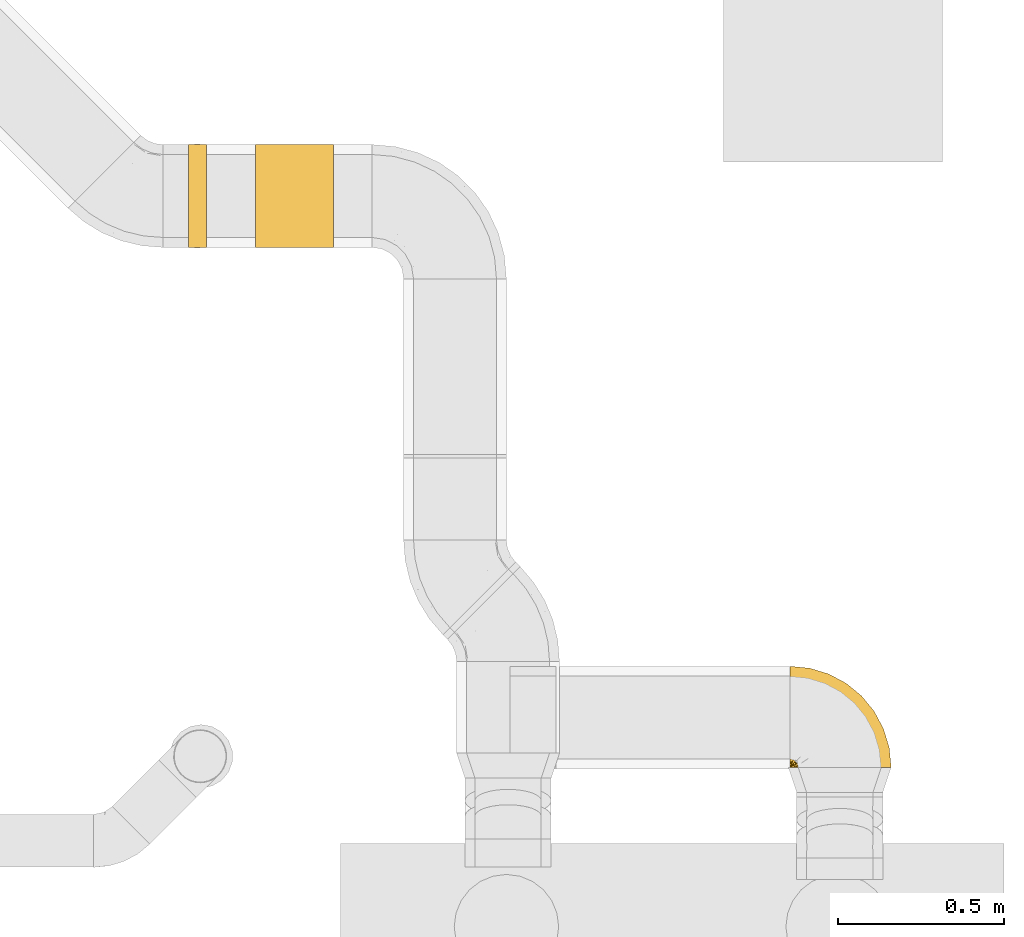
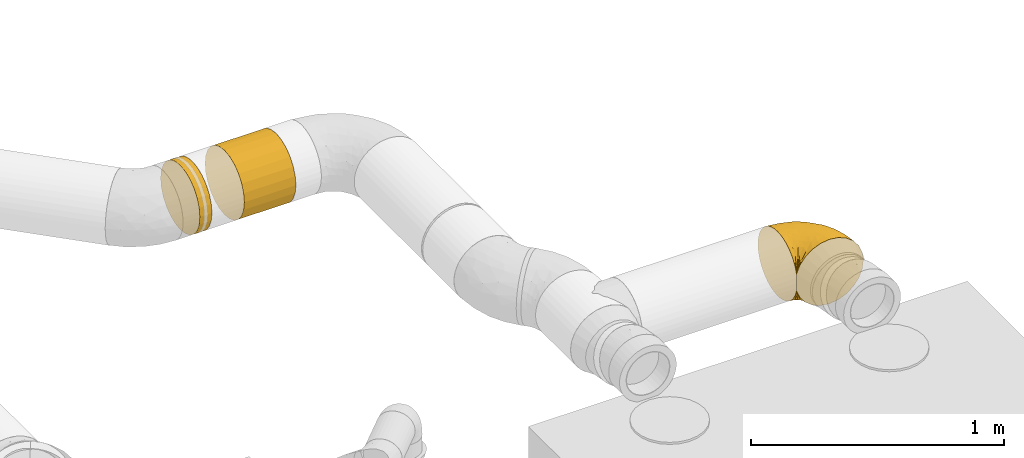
# One storey, part 8 of 21: 3 coverings.
"""IFC2X3 building model written with IfcOpenShell, lengths in millimetres."""

from ifc_helpers import new_model, entity, si_unit, converted_unit, derived_unit, direction, frame, origin_with_axes, place, context, subcontext, project, spatial, open_shell, surface_model, source, transform, mapped, element, save


model = new_model("IFC2X3")

# Units and contexts
model_context = context("Model", 3, precision=0.01, world=frame((0.0, 4.29681676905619e-09, 0.0)), true_north=direction((4.01073788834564e-13, 1.0)))
plan_context = context("Plan", 3, precision=0.01, world=frame((0.0, 4.29681676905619e-09, 0.0)), true_north=direction((4.01073788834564e-13, 1.0)))
body_context = subcontext(model_context, "Body", "Model", "MODEL_VIEW")
ifc_project = project(units=[converted_unit("PLANEANGLEUNIT", "DEGREE", entity("IfcPositiveLengthMeasure", 0.0174532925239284), si_unit("PLANEANGLEUNIT", "RADIAN"), dimensions=[0, 0, 0, 0, 0, 0, 0]), si_unit("AREAUNIT", "SQUARE_METRE"), si_unit("LENGTHUNIT", "METRE", prefix="MILLI"), si_unit("MASSUNIT", "GRAM", prefix="KILO"), si_unit("POWERUNIT", "WATT"), si_unit("PRESSUREUNIT", "PASCAL"), si_unit("FORCEUNIT", "NEWTON", prefix="KILO"), si_unit("ELECTRICVOLTAGEUNIT", "VOLT"), si_unit("ELECTRICCURRENTUNIT", "AMPERE"), si_unit("THERMODYNAMICTEMPERATUREUNIT", "DEGREE_CELSIUS"), si_unit("TIMEUNIT", "SECOND"), si_unit("VOLUMEUNIT", "CUBIC_METRE"), derived_unit("LINEARVELOCITYUNIT", [(si_unit("LENGTHUNIT", "METRE"), 1), (si_unit("TIMEUNIT", "SECOND"), -1)]), derived_unit("VOLUMETRICFLOWRATEUNIT", [(si_unit("VOLUMEUNIT", "CUBIC_METRE"), 1), (si_unit("TIMEUNIT", "SECOND"), -1)]), derived_unit("THERMALTRANSMITTANCEUNIT", [(si_unit("POWERUNIT", "WATT"), 1), (si_unit("THERMODYNAMICTEMPERATUREUNIT", "KELVIN"), -1), (si_unit("AREAUNIT", "SQUARE_METRE"), -1)]), derived_unit("SOUNDPRESSUREUNIT", [(si_unit("PRESSUREUNIT", "PASCAL"), 1)])], contexts=[model_context, plan_context])

# Site, building, storey
site_placement = place(None, frame((0.0, -4.29681676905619e-09, 0.0), z_axis=(0.0, 0.0, 1.0), x_axis=(1.0, 0.0, 0.0)))
site = spatial("IfcSite", under=ifc_project, at=site_placement, Name="ENGM", CompositionType="ELEMENT")
building_placement = place(site_placement, frame((0.0, 4.29681676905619e-09, 0.0), z_axis=(0.0, 0.0, 1.0), x_axis=(1.0, 0.0, 0.0)))
building = spatial("IfcBuilding", under=site, at=building_placement, Name="TI", CompositionType="ELEMENT")
storey_placement = place(building_placement, frame((0.0, 0.0, 210900.0), z_axis=(0.0, 0.0, 1.0), x_axis=(1.0, 0.0, 0.0)))
storey = spatial("IfcBuildingStorey", under=building, at=storey_placement, Name="Nivå F", CompositionType="ELEMENT", Elevation=210900.0)

# Coverings
shared_shape_1 = source(origin_with_axes(), body_context, "Body", "SurfaceModel", [
    surface_model("IfcShellBasedSurfaceModel", [(117.5, 134.23394, -77.5), (117.5, 40.11695, -149.7185), (117.5, 77.5, -134.23394), (117.5, 109.60155, -109.60155), (117.5, 149.7185, -40.11695), (117.5, 0.0, -155.0), (117.5, 155.0, 0.0), (117.5, -77.5, -134.23394), (117.5, -40.11695, -149.7185), (117.5, -109.60155, -109.60155), (117.5, -134.23394, -77.5), (117.5, -155.0, 0.0), (117.5, -149.7185, -40.11695), (117.5, 149.7185, 40.11695), (117.5, 134.23394, 77.5), (117.5, 109.60155, 109.60155), (117.5, 77.5, 134.23394), (117.5, 40.11695, 149.7185), (117.5, 0.0, 155.0), (117.5, -149.7185, 40.11695), (117.5, -109.60155, 109.60155), (117.5, -134.23394, 77.5), (117.5, -40.11695, 149.7185), (117.5, -77.5, 134.23394), (-117.5, 40.11695, 149.7185), (-117.5, -40.11695, 149.7185), (-117.5, 0.0, 155.0), (-117.5, 149.7185, 40.11695), (-117.5, 77.5, 134.23394), (-117.5, 109.60155, 109.60155), (-117.5, 134.23394, 77.5), (-117.5, -109.60155, -109.60155), (-117.5, -109.60155, 109.60155), (-117.5, -77.5, 134.23394), (-117.5, -149.7185, 40.11695), (-117.5, -134.23394, -77.5), (-117.5, -134.23394, 77.5), (-117.5, -155.0, 0.0), (-117.5, 149.7185, -40.11695), (-117.5, 77.5, -134.23394), (-117.5, 134.23394, -77.5), (-117.5, 40.11695, -149.7185), (-117.5, 109.60155, -109.60155), (-117.5, -149.7185, -40.11695), (-117.5, -77.5, -134.23394), (-117.5, 0.0, -155.0), (-117.5, -40.11695, -149.7185), (-117.5, 155.0, 0.0)], [open_shell([[[0, 1, 2]], [[0, 2, 3]], [[1, 4, 5]], [[4, 1, 0]], [[5, 4, 6]], [[5, 7, 8]], [[7, 5, 9]], [[6, 9, 5]], [[6, 10, 9]], [[10, 11, 12]], [[10, 6, 13]], [[13, 14, 15]], [[13, 15, 16]], [[13, 17, 11]], [[17, 13, 16]], [[11, 17, 18]], [[19, 20, 21]], [[19, 11, 18]], [[20, 22, 23]], [[22, 20, 19]], [[18, 22, 19]], [[13, 11, 10]], [[24, 25, 26]], [[27, 24, 28]], [[29, 30, 27]], [[29, 27, 28]], [[31, 25, 24]], [[25, 32, 33]], [[34, 32, 35]], [[32, 34, 36]], [[37, 34, 35]], [[25, 35, 32]], [[31, 24, 27]], [[27, 38, 31]], [[39, 38, 40]], [[39, 41, 38]], [[39, 40, 42]], [[31, 38, 41]], [[31, 35, 25]], [[43, 37, 35]], [[44, 45, 46]], [[44, 31, 41]], [[44, 41, 45]], [[27, 47, 38]], [[30, 29, 14]], [[6, 27, 13]], [[27, 6, 47]], [[14, 13, 27]], [[27, 30, 14]], [[29, 15, 14]], [[16, 28, 24]], [[17, 24, 26]], [[15, 28, 16]], [[16, 24, 17]], [[26, 18, 17]], [[28, 15, 29]], [[22, 25, 33]], [[23, 33, 32]], [[26, 25, 18]], [[18, 25, 22]], [[33, 23, 22]], [[32, 20, 23]], [[21, 36, 34]], [[19, 34, 37]], [[20, 36, 21]], [[21, 34, 19]], [[37, 11, 19]], [[36, 20, 32]], [[12, 43, 35]], [[10, 35, 31]], [[37, 43, 11]], [[11, 43, 12]], [[35, 10, 12]], [[31, 9, 10]], [[7, 44, 46]], [[8, 46, 45]], [[9, 44, 7]], [[7, 46, 8]], [[45, 5, 8]], [[44, 9, 31]], [[1, 41, 39]], [[2, 39, 42]], [[45, 41, 5]], [[5, 41, 1]], [[39, 2, 1]], [[42, 3, 2]], [[0, 40, 38]], [[4, 38, 47]], [[3, 40, 0]], [[0, 38, 4]], [[47, 6, 4]], [[40, 3, 42]]])]),
])
covering_1_placement = place(storey_placement, frame((609085.78329, 692765.29135, 2600.0), z_axis=(0.0, 0.0, 1.0), x_axis=(1.0, 0.0, 0.0)))
element("IfcCovering", 1, at=covering_1_placement, inside=storey, Name="B-EI60", PredefinedType="INSULATION", context=body_context, shape_type="MappedRepresentation", body=[
    mapped(shared_shape_1, transform((0.0, 0.0, 0.0), scale=1.0)),
])
shared_shape_2 = source(origin_with_axes(), body_context, "Body", "SurfaceModel", [
    surface_model("IfcShellBasedSurfaceModel", [(27.5, 134.23394, -77.5), (27.5, 40.11695, -149.7185), (27.5, 77.5, -134.23394), (27.5, 109.60155, -109.60155), (27.5, 149.7185, -40.11695), (27.5, 0.0, -155.0), (27.5, 155.0, 0.0), (27.5, -77.5, -134.23394), (27.5, -40.11695, -149.7185), (27.5, -109.60155, -109.60155), (27.5, -134.23394, -77.5), (27.5, -155.0, 0.0), (27.5, -149.7185, -40.11695), (27.5, 149.7185, 40.11695), (27.5, 134.23394, 77.5), (27.5, 109.60155, 109.60155), (27.5, 77.5, 134.23394), (27.5, 40.11695, 149.7185), (27.5, 0.0, 155.0), (27.5, -149.7185, 40.11695), (27.5, -109.60155, 109.60155), (27.5, -134.23394, 77.5), (27.5, -40.11695, 149.7185), (27.5, -77.5, 134.23394), (-27.5, 40.11695, 149.7185), (-27.5, -40.11695, 149.7185), (-27.5, 0.0, 155.0), (-27.5, 149.7185, 40.11695), (-27.5, 77.5, 134.23394), (-27.5, 109.60155, 109.60155), (-27.5, 134.23394, 77.5), (-27.5, -109.60155, -109.60155), (-27.5, -109.60155, 109.60155), (-27.5, -77.5, 134.23394), (-27.5, -149.7185, 40.11695), (-27.5, -134.23394, -77.5), (-27.5, -134.23394, 77.5), (-27.5, -155.0, 0.0), (-27.5, 149.7185, -40.11695), (-27.5, 77.5, -134.23394), (-27.5, 134.23394, -77.5), (-27.5, 40.11695, -149.7185), (-27.5, 109.60155, -109.60155), (-27.5, -149.7185, -40.11695), (-27.5, -77.5, -134.23394), (-27.5, 0.0, -155.0), (-27.5, -40.11695, -149.7185), (-27.5, 155.0, 0.0)], [open_shell([[[0, 1, 2]], [[0, 2, 3]], [[1, 4, 5]], [[4, 1, 0]], [[5, 4, 6]], [[5, 7, 8]], [[7, 5, 9]], [[6, 9, 5]], [[6, 10, 9]], [[10, 11, 12]], [[10, 6, 13]], [[13, 14, 15]], [[13, 15, 16]], [[13, 17, 11]], [[17, 13, 16]], [[11, 17, 18]], [[19, 20, 21]], [[19, 11, 18]], [[20, 22, 23]], [[22, 20, 19]], [[18, 22, 19]], [[13, 11, 10]], [[24, 25, 26]], [[27, 24, 28]], [[29, 30, 27]], [[29, 27, 28]], [[31, 25, 24]], [[25, 32, 33]], [[34, 32, 35]], [[32, 34, 36]], [[37, 34, 35]], [[25, 35, 32]], [[31, 24, 27]], [[27, 38, 31]], [[39, 38, 40]], [[39, 41, 38]], [[39, 40, 42]], [[31, 38, 41]], [[31, 35, 25]], [[43, 37, 35]], [[44, 45, 46]], [[44, 31, 41]], [[44, 41, 45]], [[27, 47, 38]], [[13, 47, 27]], [[14, 27, 30]], [[6, 47, 13]], [[14, 13, 27]], [[15, 14, 30]], [[30, 29, 15]], [[24, 26, 17]], [[16, 28, 17]], [[16, 15, 28]], [[17, 28, 24]], [[26, 18, 17]], [[28, 15, 29]], [[22, 26, 25]], [[23, 25, 33]], [[18, 26, 22]], [[23, 22, 25]], [[20, 23, 33]], [[33, 32, 20]], [[21, 32, 36]], [[19, 36, 34]], [[21, 36, 19]], [[11, 19, 34]], [[37, 11, 34]], [[32, 21, 20]], [[12, 37, 43]], [[10, 43, 35]], [[11, 37, 12]], [[10, 12, 43]], [[9, 10, 35]], [[35, 31, 9]], [[7, 31, 44]], [[8, 44, 46]], [[7, 44, 8]], [[5, 8, 46]], [[45, 5, 46]], [[31, 7, 9]], [[1, 45, 41]], [[2, 41, 39]], [[5, 45, 1]], [[2, 1, 41]], [[3, 2, 39]], [[39, 42, 3]], [[0, 42, 40]], [[4, 40, 38]], [[0, 40, 4]], [[6, 4, 38]], [[47, 6, 38]], [[42, 0, 3]]])]),
])
covering_2_placement = place(storey_placement, frame((608793.0993, 692765.29135, 2600.0), z_axis=(0.0, 0.0, 1.0), x_axis=(1.0, 0.0, 0.0)))
element("IfcCovering", 2, at=covering_2_placement, inside=storey, Name="B-EI60", PredefinedType="INSULATION", context=body_context, shape_type="MappedRepresentation", body=[
    mapped(shared_shape_2, transform((0.0, 0.0, 0.0), scale=1.0)),
])
shared_shape_3 = source(origin_with_axes(), body_context, "Body", "SurfaceModel", [
    surface_model("IfcShellBasedSurfaceModel", [(53.0122, 150.0, 145.65269), (77.50252, 150.0, 134.23249), (26.91195, 150.0, 152.64582), (0.0, 150.0, 155.0), (118.73529, 150.0, 99.63399), (-149.602, 150.0, -40.54927), (-40.0315, 150.0, 149.74138), (134.23266, 150.0, 77.50222), (145.65278, 150.0, 53.01196), (99.63454, 150.0, 118.73482), (-94.17833, 150.0, 123.10745), (-77.34385, 150.0, 134.32397), (-59.19195, 150.0, 143.25262), (-20.18853, 150.0, 153.67961), (-122.77614, 150.0, 94.60984), (-109.40886, 150.0, 109.79391), (-134.05246, 150.0, 77.81348), (-149.602, 150.0, 40.54927), (-143.04559, 150.0, 59.69053), (152.6459, 150.0, 26.91148), (155.0, 150.0, 0.0), (152.64582, 150.0, -26.91195), (99.63399, 150.0, -118.73529), (134.23249, 150.0, -77.50252), (145.65269, 150.0, -53.0122), (118.73482, 150.0, -99.63454), (77.50222, 150.0, -134.23266), (53.01196, 150.0, -145.65278), (26.91148, 150.0, -152.6459), (0.0, 150.0, -155.0), (-94.1823, 150.0, -123.1044), (-109.41224, 150.0, -109.79055), (-122.77862, 150.0, -94.6066), (-134.05394, 150.0, -77.81094), (-143.0461, 150.0, -59.68929), (-20.18986, 150.0, -153.67945), (-40.03434, 150.0, -149.74061), (-59.19573, 150.0, -143.25106), (-77.34799, 150.0, -134.32159), (-150.0, 149.602, -40.54927), (-150.0, 134.05448, -77.81), (-150.0, 77.34484, -134.3234), (-150.0, 149.602, 40.54927), (-150.0, 109.41143, -109.79135), (-150.0, -40.11695, 149.7185), (-150.0, 0.0, 155.0), (-150.0, 134.05448, 77.81), (-150.0, 77.34484, 134.3234), (-150.0, 109.41143, 109.79135), (-150.0, 40.03045, 149.74166), (-150.0, 40.03045, -149.74166), (-150.0, -40.11695, -149.7185), (-150.0, 0.0, -155.0), (-150.0, -149.7185, -40.11695), (-150.0, -77.5, -134.23394), (-150.0, -109.60155, -109.60155), (-150.0, -134.23394, -77.5), (-150.0, -109.60155, 109.60155), (-150.0, -77.5, 134.23394), (-150.0, -149.7185, 40.11695), (-150.0, -134.23394, 77.5), (-150.0, -155.0, 0.0), (-149.71857, 149.71857, 40.54927), (-149.71857, 149.71857, -40.54927), (-122.0938, 63.58605, -143.25267), (-136.20073, 95.91287, -123.10592), (-137.47708, 125.83029, -94.60648), (-147.1653, 140.01208, -67.31958), (-145.05359, 140.9526, -67.17187), (-149.94253, 149.6258, -40.54927), (-80.29961, 51.39737, -152.21515), (-103.44954, 37.61727, -152.38384), (-94.99005, 78.30964, -143.06822), (-55.95077, 115.20609, -146.80879), (-89.48176, 101.66012, -136.97501), (-88.82525, 121.39611, -131.24017), (-111.5374, 121.30822, -116.69619), (-144.09591, 123.4267, -94.60648), (-127.29873, 29.80052, -152.50922), (-75.0, 20.09619, -155.0), (-118.1798, 139.03454, -102.41686), (-118.92581, 90.55276, -130.95454), (-70.00847, 133.96789, -139.08278), (-61.94591, 82.43371, -150.01067), (-20.09619, 75.0, -155.0), (-43.93398, 43.93398, -155.0), (-149.68409, 149.80181, -40.54927), (-149.6496, 149.88506, -40.54927), (-132.32871, 142.03789, -83.45054), (-31.66904, 101.56483, -153.41062), (-136.84157, 146.59806, -73.60439), (-96.60055, 136.76109, -122.48696), (-32.51292, 126.45276, -152.03415), (-5.11113, 111.17714, -155.0), (-111.17714, 5.11113, -155.0), (-137.03744, 135.04293, -84.08924), (-122.88609, 116.1525, -112.49311), (-136.26737, 140.44841, -79.14233), (-131.29438, 108.39556, -114.58186), (-106.70969, 100.42277, -130.1473), (-149.85928, 149.66028, -40.54927), (-149.78892, 149.68943, -40.54927), (-81.04119, -16.4813, -152.02986), (-116.18378, -26.02376, -152.21653), (131.78325, 33.28155, 0.0), (141.04553, 78.41765, -40.11476), (149.13951, 90.49746, 0.0), (-67.24735, -127.11264, -68.1691), (114.14712, 29.15563, -65.5067), (71.60067, -25.07998, -80.56368), (73.38458, 8.67006, -104.65045), (19.44892, -103.59823, 0.0), (0.95675, -110.7753, -33.58994), (49.11602, -77.65106, -28.03421), (-55.94132, -75.53005, -122.96977), (-107.24387, -90.58835, -122.96977), (-95.66121, -52.13969, -143.20133), (-0.20771, 35.06033, -150.06284), (-51.31739, 1.48198, -152.392), (-54.64138, -41.60716, -141.15892), (66.67312, 101.83568, -137.28255), (45.31502, 58.92276, -140.47743), (34.46684, 104.00581, -149.71919), (24.23902, -68.16086, -85.62716), (34.45369, -32.67366, -109.60181), (24.66713, 4.62395, -134.37766), (63.48014, 35.8833, -124.69436), (-79.13657, -113.61121, -94.35802), (-90.49746, -149.13951, 0.0), (37.641, -76.72836, -56.58032), (80.98557, -39.56495, -43.35542), (-33.28155, -131.78325, 0.0), (-62.91134, -137.09287, -39.00803), (-13.29658, -105.75414, -66.52793), (16.94312, 69.59641, -150.92769), (-24.95593, -12.96061, -144.75851), (130.97075, 88.8354, -71.44703), (94.07091, 61.55667, -109.60181), (-18.16534, -43.73064, -130.0498), (-9.76446, -69.1649, -109.00911), (65.66757, -65.66757, 0.0), (103.59823, -19.44892, 0.0), (120.05296, 16.01657, -32.92188), (-5.11113, 111.17714, 155.0), (34.46716, 104.0056, 149.7191), (-62.91133, -137.09289, 39.0079), (66.67351, 101.83536, 137.28232), (-4.6351, -113.35095, 35.80975), (-0.2077, 35.06033, 150.06284), (-20.09619, 75.0, 155.0), (-43.93398, 43.93398, 155.0), (36.16335, -79.7298, 52.90958), (-13.29652, -105.75426, 66.52764), (130.97108, 88.83573, 71.44654), (94.07163, 61.55714, 109.6013), (-92.39124, -133.99727, 66.97895), (80.98555, -39.56494, 43.3555), (141.04569, 78.41789, 40.11439), (-116.18307, -26.02416, 152.21643), (-42.25815, 9.58809, 152.63287), (-81.59831, -114.26067, 94.35802), (-106.87422, -81.84174, 129.07425), (-68.59042, -52.86926, 138.99578), (-109.18329, -55.29772, 143.20132), (24.85479, 7.19063, 135.22219), (45.31512, 58.92233, 140.4773), (71.60146, -25.07914, 80.56352), (73.38472, 8.67039, 104.65052), (34.45406, -32.67402, 109.6013), (-62.50502, -78.15668, 122.96977), (-22.5047, -16.15511, 143.15239), (-77.22963, -25.6832, 149.70747), (114.14749, 29.15614, 65.50643), (63.48119, 35.88453, 124.69411), (120.0532, 16.01702, 32.92178), (-12.32249, -52.34142, 122.67654), (-19.74165, -84.78439, 99.91659), (26.84205, -68.68367, 82.46936), (-75.0, 20.09619, 155.0), (-111.17714, 5.11113, 155.0), (16.94342, 69.59623, 150.92761), (-126.9186, 42.25363, 149.80065), (-133.44376, 70.7605, 138.77026), (-80.71722, 115.52173, 136.9396), (-88.44442, 132.27863, 128.99063), (-102.56993, 126.66501, 120.78383), (-129.14296, 145.62289, 86.39583), (-78.97145, 57.43379, 151.37565), (-102.00586, 34.13191, 153.03779), (-149.6496, 149.88506, 40.54927), (-149.68409, 149.80181, 40.54927), (-138.49277, 144.51348, 72.02055), (-31.66714, 101.56927, 153.41064), (-62.73488, 83.03912, 149.74853), (-145.07011, 140.96969, 67.1242), (-149.85928, 149.66028, 40.54927), (-147.18207, 140.07114, 67.19209), (-79.93189, 99.563, 141.32072), (-55.94657, 115.20788, 146.80992), (-127.65846, 131.00429, 97.27617), (-138.2493, 135.6572, 82.12014), (-126.96761, 121.12603, 106.02507), (-143.89541, 123.47205, 94.60648), (-137.14121, 126.0073, 94.60648), (-133.70052, 96.61307, 123.10592), (-141.16662, 142.91589, 69.23674), (-118.67586, 137.68084, 102.42018), (-32.51047, 126.45429, 152.03457), (-149.94253, 149.6258, 40.54927), (-112.02924, 142.68426, 107.84446), (-56.66755, 133.19502, 144.85039), (-141.71917, 147.96851, 63.32625), (-149.6258, 149.94253, 40.54927), (-127.7393, 109.40375, 115.20024), (-112.88997, 97.15414, 129.33464), (-98.3972, 112.04888, 128.99063), (-89.95823, 85.78628, 142.02115), (-113.50407, 61.89104, 145.05307), (-103.07319, 76.35019, 141.76527), (-149.78892, 149.68943, 40.54927)], [open_shell([[[0, 1, 2]], [[3, 2, 1]], [[1, 4, 3]], [[4, 5, 6]], [[4, 7, 8]], [[4, 6, 3]], [[9, 4, 1]], [[8, 5, 4]], [[10, 6, 5]], [[6, 11, 12]], [[11, 6, 10]], [[13, 3, 6]], [[14, 15, 16]], [[16, 17, 18]], [[5, 17, 16]], [[5, 16, 15]], [[10, 5, 15]], [[8, 19, 20]], [[8, 21, 22]], [[22, 21, 23]], [[23, 21, 24]], [[22, 23, 25]], [[22, 26, 27]], [[27, 28, 29]], [[22, 27, 5]], [[8, 22, 5]], [[29, 5, 27]], [[30, 31, 32]], [[5, 33, 34]], [[33, 5, 32]], [[30, 32, 5]], [[35, 36, 37]], [[30, 37, 38]], [[30, 5, 37]], [[5, 29, 37]], [[29, 35, 37]], [[21, 8, 20]], [[39, 40, 41]], [[39, 41, 42]], [[41, 40, 43]], [[44, 45, 41]], [[46, 47, 48]], [[47, 46, 42]], [[42, 49, 47]], [[49, 42, 45]], [[42, 41, 45]], [[41, 50, 44]], [[51, 44, 52]], [[53, 51, 54]], [[55, 56, 53]], [[55, 53, 54]], [[44, 51, 53]], [[44, 57, 58]], [[57, 44, 59]], [[57, 59, 60]], [[44, 53, 59]], [[53, 61, 59]], [[52, 44, 50]], [[39, 42, 62]], [[63, 39, 62]], [[17, 5, 62]], [[63, 62, 5]], [[64, 41, 65]], [[66, 67, 68]], [[40, 39, 69]], [[70, 71, 72]], [[41, 43, 65]], [[73, 74, 75]], [[74, 76, 75]], [[77, 43, 40]], [[50, 78, 52]], [[77, 65, 43]], [[78, 64, 71]], [[71, 70, 79]], [[32, 31, 80]], [[50, 41, 64]], [[81, 64, 65]], [[37, 82, 38]], [[83, 84, 85]], [[86, 87, 88]], [[34, 87, 5]], [[89, 83, 73]], [[90, 34, 33]], [[73, 83, 74]], [[82, 75, 91]], [[30, 91, 31]], [[38, 82, 91]], [[89, 92, 93]], [[35, 93, 92]], [[85, 70, 83]], [[75, 82, 73]], [[36, 82, 37]], [[92, 89, 73]], [[82, 36, 92]], [[94, 71, 79]], [[35, 92, 36]], [[35, 29, 93]], [[77, 67, 66]], [[32, 90, 33]], [[92, 73, 82]], [[66, 68, 95]], [[75, 80, 91]], [[95, 96, 66]], [[32, 80, 90]], [[80, 75, 76]], [[88, 76, 97]], [[96, 81, 98]], [[76, 96, 95]], [[87, 90, 88]], [[93, 84, 89]], [[83, 89, 84]], [[83, 72, 74]], [[99, 74, 72]], [[69, 67, 40]], [[77, 66, 98]], [[67, 69, 100]], [[67, 100, 68]], [[40, 67, 77]], [[95, 101, 63]], [[95, 63, 97]], [[68, 101, 95]], [[76, 95, 97]], [[99, 76, 74]], [[81, 72, 64]], [[78, 71, 94]], [[72, 71, 64]], [[83, 70, 72]], [[85, 79, 70]], [[68, 100, 101]], [[98, 81, 65]], [[99, 81, 96]], [[52, 78, 94]], [[64, 78, 50]], [[31, 91, 80]], [[38, 91, 30]], [[97, 63, 86]], [[34, 90, 87]], [[88, 90, 80]], [[81, 99, 72]], [[76, 99, 96]], [[77, 98, 65]], [[96, 98, 66]], [[76, 88, 80]], [[86, 88, 97]], [[79, 102, 94]], [[103, 52, 94]], [[104, 105, 106]], [[107, 53, 56]], [[108, 109, 110]], [[111, 112, 113]], [[114, 115, 116]], [[85, 117, 118]], [[54, 115, 55]], [[102, 118, 119]], [[21, 106, 105]], [[120, 121, 122]], [[109, 123, 124]], [[125, 121, 126]], [[56, 127, 107]], [[61, 53, 128]], [[113, 129, 130]], [[56, 55, 127]], [[131, 128, 132]], [[129, 112, 133]], [[121, 117, 134]], [[130, 109, 108]], [[131, 132, 112]], [[125, 135, 117]], [[121, 134, 122]], [[132, 107, 133]], [[25, 23, 136]], [[128, 53, 132]], [[28, 27, 122]], [[137, 22, 25]], [[124, 138, 125]], [[27, 26, 120]], [[93, 28, 122]], [[27, 120, 122]], [[55, 115, 127]], [[28, 93, 29]], [[127, 114, 139]], [[138, 119, 135]], [[140, 130, 141]], [[105, 136, 24]], [[117, 85, 84]], [[142, 105, 104]], [[105, 24, 21]], [[54, 51, 116]], [[137, 25, 136]], [[120, 22, 137]], [[21, 20, 106]], [[142, 141, 130]], [[139, 124, 123]], [[108, 136, 105]], [[105, 142, 108]], [[102, 103, 94]], [[118, 117, 135]], [[93, 122, 134]], [[110, 126, 137]], [[125, 117, 121]], [[138, 124, 139]], [[118, 102, 79]], [[103, 116, 51]], [[123, 129, 133]], [[110, 109, 124]], [[129, 109, 130]], [[133, 127, 139]], [[139, 123, 133]], [[138, 139, 114]], [[119, 114, 116]], [[125, 138, 135]], [[114, 119, 138]], [[102, 119, 116]], [[109, 129, 123]], [[130, 140, 113]], [[131, 112, 111]], [[132, 133, 112]], [[111, 113, 140]], [[112, 129, 113]], [[141, 142, 104]], [[130, 108, 142]], [[116, 103, 102]], [[52, 103, 51]], [[22, 120, 26]], [[126, 120, 137]], [[137, 136, 108]], [[24, 136, 23]], [[116, 115, 54]], [[127, 115, 114]], [[126, 124, 125]], [[108, 110, 137]], [[126, 110, 124]], [[120, 126, 121]], [[85, 118, 79]], [[119, 118, 135]], [[117, 84, 134]], [[93, 134, 84]], [[107, 132, 53]], [[127, 133, 107]], [[2, 143, 144]], [[59, 61, 128]], [[131, 145, 128]], [[146, 9, 1]], [[131, 111, 147]], [[148, 149, 150]], [[151, 152, 147]], [[153, 4, 154]], [[155, 59, 145]], [[140, 156, 151]], [[106, 19, 157]], [[156, 140, 141]], [[45, 44, 158]], [[159, 148, 150]], [[152, 160, 155]], [[161, 162, 163]], [[163, 44, 58]], [[164, 165, 148]], [[166, 151, 156]], [[166, 167, 168]], [[161, 160, 169]], [[170, 159, 171]], [[166, 156, 172]], [[168, 173, 164]], [[174, 141, 104]], [[175, 164, 170]], [[157, 104, 106]], [[57, 160, 161]], [[175, 169, 176]], [[19, 8, 157]], [[177, 151, 166]], [[20, 19, 106]], [[146, 1, 0]], [[172, 157, 153]], [[178, 179, 171]], [[8, 7, 153]], [[162, 171, 163]], [[154, 4, 9]], [[165, 144, 180]], [[150, 178, 159]], [[180, 143, 149]], [[165, 180, 148]], [[144, 146, 0]], [[154, 172, 153]], [[0, 2, 144]], [[176, 169, 160]], [[3, 143, 2]], [[57, 60, 160]], [[157, 172, 174]], [[144, 165, 146]], [[163, 158, 44]], [[59, 128, 145]], [[155, 160, 60]], [[157, 174, 104]], [[176, 160, 152]], [[164, 148, 170]], [[168, 167, 173]], [[161, 163, 58]], [[158, 171, 179]], [[177, 176, 152]], [[175, 176, 168]], [[164, 175, 168]], [[162, 175, 170]], [[167, 172, 154]], [[168, 176, 177]], [[172, 156, 174]], [[141, 174, 156]], [[177, 152, 151]], [[168, 177, 166]], [[147, 152, 145]], [[140, 151, 111]], [[131, 147, 145]], [[111, 151, 147]], [[8, 153, 157]], [[153, 7, 4]], [[173, 146, 165]], [[9, 146, 154]], [[171, 158, 163]], [[45, 158, 179]], [[171, 159, 178]], [[148, 159, 170]], [[175, 162, 169]], [[170, 171, 162]], [[172, 167, 166]], [[167, 154, 173]], [[146, 173, 154]], [[164, 173, 165]], [[57, 161, 58]], [[162, 161, 169]], [[143, 180, 144]], [[149, 148, 180]], [[59, 155, 60]], [[152, 155, 145]], [[45, 179, 181]], [[49, 182, 47]], [[183, 184, 185]], [[186, 14, 16]], [[187, 178, 150]], [[178, 188, 179]], [[189, 190, 191]], [[192, 193, 149]], [[194, 195, 196]], [[197, 198, 183]], [[199, 200, 201]], [[46, 48, 202]], [[179, 188, 181]], [[194, 203, 200]], [[181, 182, 49]], [[204, 48, 47]], [[199, 205, 200]], [[206, 186, 191]], [[207, 192, 143]], [[46, 208, 42]], [[143, 3, 13]], [[185, 184, 206]], [[209, 14, 186]], [[210, 6, 12]], [[195, 208, 196]], [[16, 18, 211]], [[10, 184, 11]], [[6, 210, 207]], [[193, 150, 149]], [[198, 207, 210]], [[18, 17, 212]], [[209, 10, 15]], [[211, 191, 186]], [[209, 15, 14]], [[210, 11, 184]], [[201, 213, 214]], [[187, 150, 193]], [[215, 185, 199]], [[211, 18, 212]], [[209, 186, 206]], [[192, 207, 198]], [[6, 207, 13]], [[143, 13, 207]], [[199, 206, 191]], [[216, 187, 193]], [[204, 217, 218]], [[204, 213, 202]], [[216, 215, 214]], [[188, 187, 217]], [[218, 187, 216]], [[215, 199, 201]], [[204, 202, 48]], [[196, 46, 202]], [[193, 192, 198]], [[149, 143, 192]], [[203, 194, 196]], [[46, 196, 208]], [[203, 196, 202]], [[203, 201, 200]], [[200, 219, 194]], [[205, 199, 191]], [[206, 184, 209]], [[191, 190, 205]], [[62, 200, 205]], [[213, 201, 203]], [[62, 205, 190]], [[215, 201, 214]], [[202, 213, 203]], [[204, 214, 213]], [[219, 200, 62]], [[219, 195, 194]], [[10, 209, 184]], [[11, 210, 12]], [[184, 198, 210]], [[216, 193, 197]], [[218, 216, 214]], [[187, 188, 178]], [[181, 188, 217]], [[181, 217, 182]], [[181, 49, 45]], [[217, 204, 182]], [[204, 47, 182]], [[204, 218, 214]], [[187, 218, 217]], [[199, 185, 206]], [[183, 185, 215]], [[197, 183, 215]], [[184, 183, 198]], [[216, 197, 215]], [[198, 197, 193]], [[211, 212, 189]], [[191, 211, 189]], [[211, 186, 16]]])]),
])
covering_3_placement = place(storey_placement, frame((610729.51365, 691192.49978, 2600.0), z_axis=(0.0, 0.0, 1.0), x_axis=(0.0, 1.0, 0.0)))
element("IfcCovering", 3, at=covering_3_placement, inside=storey, Name="B-EI60", PredefinedType="INSULATION", context=body_context, shape_type="MappedRepresentation", body=[
    mapped(shared_shape_3, transform((0.0, 0.0, 0.0), scale=1.0)),
])

save(model, "model.ifc")
